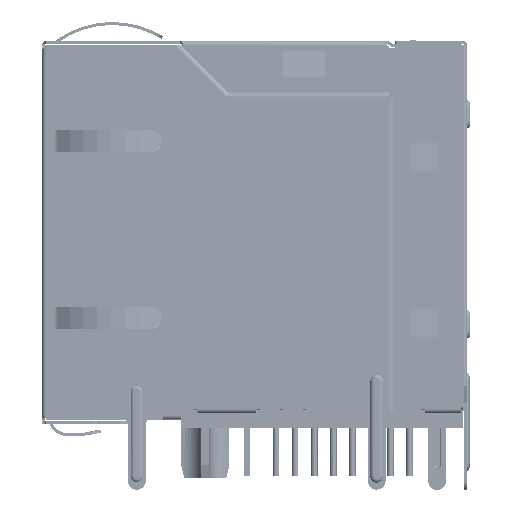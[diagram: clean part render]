
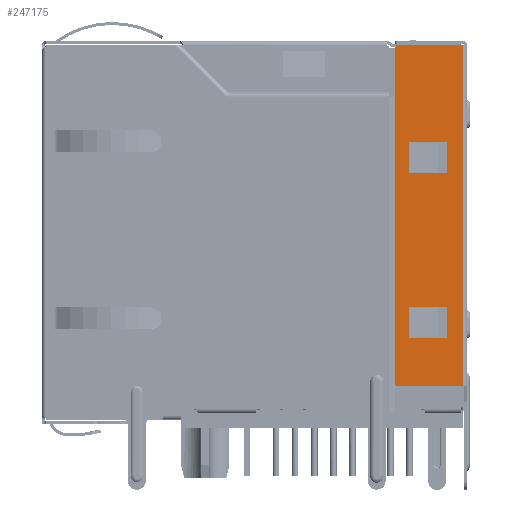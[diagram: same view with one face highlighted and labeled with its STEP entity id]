
A CAD part, left-side view. The second image highlights one B-rep face of the part: STEP entity #247175.
In plain terms, the highlighted planar face has unit normal (-1, 0, 0).
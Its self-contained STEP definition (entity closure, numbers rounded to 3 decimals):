
#89963=CARTESIAN_POINT('',(-85.47,4.425,-0.15));
#89964=DIRECTION('',(1.,0.,0.));
#89965=DIRECTION('',(0.,1.,0.));
#89966=AXIS2_PLACEMENT_3D('',#89963,#89964,#89965);
#89968=DIRECTION('',(0.,1.,0.));
#89969=VECTOR('',#89968,4.4);
#89970=CARTESIAN_POINT('',(-85.47,0.025,-22.75));
#89971=LINE('',#89970,#89969);
#89972=CARTESIAN_POINT('',(-85.47,4.425,-22.65));
#89973=DIRECTION('',(1.,0.,0.));
#89974=DIRECTION('',(0.,0.,-1.));
#89975=AXIS2_PLACEMENT_3D('',#89972,#89973,#89974);
#89985=DIRECTION('',(0.,0.,1.));
#89986=VECTOR('',#89985,22.5);
#89987=CARTESIAN_POINT('',(-85.47,4.525,-22.65));
#89988=LINE('',#89987,#89986);
#89998=DIRECTION('',(0.,-1.,0.));
#89999=VECTOR('',#89998,4.4);
#90000=CARTESIAN_POINT('',(-85.47,4.425,-0.05));
#90001=LINE('',#90000,#89999);
#90011=DIRECTION('',(0.,0.,1.));
#90012=VECTOR('',#90011,22.7);
#90013=CARTESIAN_POINT('',(-85.47,0.025,-22.75));
#90014=LINE('',#90013,#90012);
#90626=DIRECTION('',(0.,-1.,0.));
#90627=VECTOR('',#90626,2.5);
#90628=CARTESIAN_POINT('',(-85.47,3.615,-19.571));
#90629=LINE('',#90628,#90627);
#90634=DIRECTION('',(0.,0.,1.));
#90635=VECTOR('',#90634,2.1);
#90636=CARTESIAN_POINT('',(-85.47,3.615,-19.571));
#90637=LINE('',#90636,#90635);
#90646=DIRECTION('',(0.,-1.,0.));
#90647=VECTOR('',#90646,2.5);
#90648=CARTESIAN_POINT('',(-85.47,3.615,-17.471));
#90649=LINE('',#90648,#90647);
#90658=DIRECTION('',(0.,0.,1.));
#90659=VECTOR('',#90658,2.1);
#90660=CARTESIAN_POINT('',(-85.47,1.115,-19.571));
#90661=LINE('',#90660,#90659);
#90674=DIRECTION('',(0.,-1.,0.));
#90675=VECTOR('',#90674,2.5);
#90676=CARTESIAN_POINT('',(-85.47,3.615,-8.571));
#90677=LINE('',#90676,#90675);
#90682=DIRECTION('',(0.,0.,1.));
#90683=VECTOR('',#90682,2.1);
#90684=CARTESIAN_POINT('',(-85.47,3.615,-8.571));
#90685=LINE('',#90684,#90683);
#90694=DIRECTION('',(0.,-1.,0.));
#90695=VECTOR('',#90694,2.5);
#90696=CARTESIAN_POINT('',(-85.47,3.615,-6.471));
#90697=LINE('',#90696,#90695);
#90706=DIRECTION('',(0.,0.,1.));
#90707=VECTOR('',#90706,2.1);
#90708=CARTESIAN_POINT('',(-85.47,1.115,-8.571));
#90709=LINE('',#90708,#90707);
#123783=CARTESIAN_POINT('',(-85.47,0.025,-22.75));
#123784=VERTEX_POINT('',#123783);
#123785=CARTESIAN_POINT('',(-85.47,4.425,-22.75));
#123786=VERTEX_POINT('',#123785);
#123787=CARTESIAN_POINT('',(-85.47,4.525,-22.65));
#123788=VERTEX_POINT('',#123787);
#123789=CARTESIAN_POINT('',(-85.47,4.525,-0.15));
#123790=CARTESIAN_POINT('',(-85.47,4.425,-0.05));
#123791=VERTEX_POINT('',#123789);
#123792=VERTEX_POINT('',#123790);
#123793=CARTESIAN_POINT('',(-85.47,0.025,-0.05));
#123794=VERTEX_POINT('',#123793);
#123795=CARTESIAN_POINT('',(-85.47,3.615,-19.571));
#123796=CARTESIAN_POINT('',(-85.47,1.115,-19.571));
#123797=VERTEX_POINT('',#123795);
#123798=VERTEX_POINT('',#123796);
#123799=CARTESIAN_POINT('',(-85.47,3.615,-17.471));
#123800=VERTEX_POINT('',#123799);
#123801=CARTESIAN_POINT('',(-85.47,1.115,-17.471));
#123802=VERTEX_POINT('',#123801);
#123803=CARTESIAN_POINT('',(-85.47,3.615,-8.571));
#123804=CARTESIAN_POINT('',(-85.47,1.115,-8.571));
#123805=VERTEX_POINT('',#123803);
#123806=VERTEX_POINT('',#123804);
#123807=CARTESIAN_POINT('',(-85.47,3.615,-6.471));
#123808=VERTEX_POINT('',#123807);
#123809=CARTESIAN_POINT('',(-85.47,1.115,-6.471));
#123810=VERTEX_POINT('',#123809);
#247138=CARTESIAN_POINT('',(-85.47,2.275,-11.4));
#247139=DIRECTION('',(1.,0.,0.));
#247140=DIRECTION('',(0.,0.,-1.));
#247141=AXIS2_PLACEMENT_3D('',#247138,#247139,#247140);
#247142=PLANE('',#247141);
#247144=ORIENTED_EDGE('',*,*,#247143,.T.);
#247146=ORIENTED_EDGE('',*,*,#247145,.T.);
#247148=ORIENTED_EDGE('',*,*,#247147,.F.);
#247149=ORIENTED_EDGE('',*,*,#247102,.T.);
#247150=ORIENTED_EDGE('',*,*,#247129,.T.);
#247152=ORIENTED_EDGE('',*,*,#247151,.T.);
#247153=EDGE_LOOP('',(#247144,#247146,#247148,#247149,#247150,#247152));
#247154=FACE_OUTER_BOUND('',#247153,.F.);
#247156=ORIENTED_EDGE('',*,*,#247155,.T.);
#247158=ORIENTED_EDGE('',*,*,#247157,.T.);
#247160=ORIENTED_EDGE('',*,*,#247159,.F.);
#247162=ORIENTED_EDGE('',*,*,#247161,.F.);
#247163=EDGE_LOOP('',(#247156,#247158,#247160,#247162));
#247164=FACE_BOUND('',#247163,.F.);
#247166=ORIENTED_EDGE('',*,*,#247165,.T.);
#247168=ORIENTED_EDGE('',*,*,#247167,.T.);
#247170=ORIENTED_EDGE('',*,*,#247169,.F.);
#247172=ORIENTED_EDGE('',*,*,#247171,.F.);
#247173=EDGE_LOOP('',(#247166,#247168,#247170,#247172));
#247174=FACE_BOUND('',#247173,.F.);
#247175=ADVANCED_FACE('',(#247154,#247164,#247174),#247142,.F.);
#89967=CIRCLE('',#89966,0.1);
#89976=CIRCLE('',#89975,0.1);
#247102=EDGE_CURVE('',#123784,#123786,#89971,.T.);
#247129=EDGE_CURVE('',#123786,#123788,#89976,.T.);
#247143=EDGE_CURVE('',#123791,#123792,#89967,.T.);
#247145=EDGE_CURVE('',#123792,#123794,#90001,.T.);
#247147=EDGE_CURVE('',#123784,#123794,#90014,.T.);
#247151=EDGE_CURVE('',#123788,#123791,#89988,.T.);
#247155=EDGE_CURVE('',#123797,#123798,#90629,.T.);
#247157=EDGE_CURVE('',#123798,#123802,#90661,.T.);
#247159=EDGE_CURVE('',#123800,#123802,#90649,.T.);
#247161=EDGE_CURVE('',#123797,#123800,#90637,.T.);
#247165=EDGE_CURVE('',#123805,#123806,#90677,.T.);
#247167=EDGE_CURVE('',#123806,#123810,#90709,.T.);
#247169=EDGE_CURVE('',#123808,#123810,#90697,.T.);
#247171=EDGE_CURVE('',#123805,#123808,#90685,.T.);
